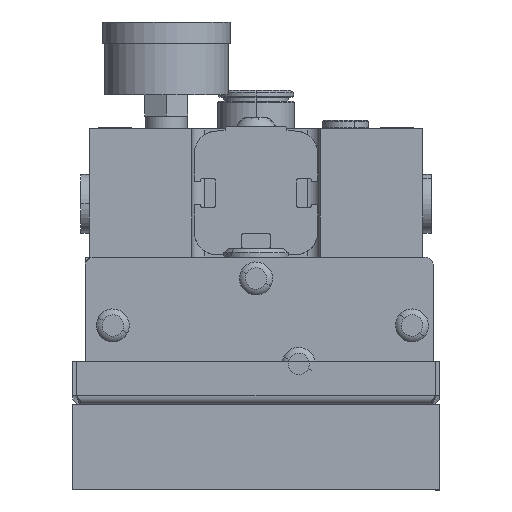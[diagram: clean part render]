
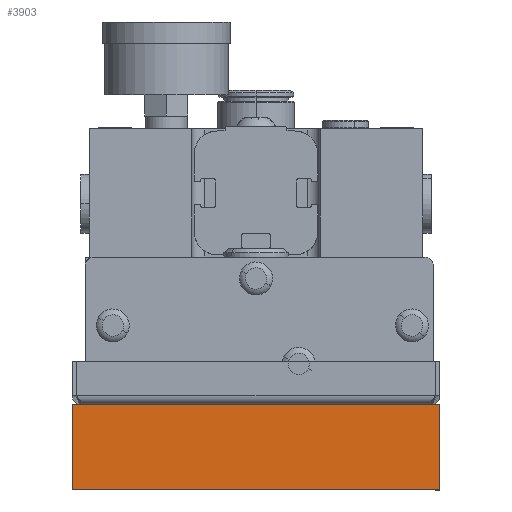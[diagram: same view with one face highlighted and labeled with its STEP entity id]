
A CAD part, front view. The second image highlights one B-rep face of the part: STEP entity #3903.
In plain terms, the highlighted planar face has unit normal (0, -1, 0).
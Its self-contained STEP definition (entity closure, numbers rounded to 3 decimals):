
#2549 = ORIENTED_EDGE ( 'NONE', *, *, #26802, .F. ) ;
#2551 = ORIENTED_EDGE ( 'NONE', *, *, #26729, .T. ) ;
#2552 = ORIENTED_EDGE ( 'NONE', *, *, #26722, .F. ) ;
#2559 = ORIENTED_EDGE ( 'NONE', *, *, #26728, .T. ) ;
#3903 = ADVANCED_FACE ( 'NONE', ( #12748 ), #24042, .F. ) ;
#12748 = FACE_OUTER_BOUND ( 'NONE', #19196, .T. ) ;
#14394 = CARTESIAN_POINT ( 'NONE',  ( -40.144, -134.65, 45.716 ) ) ;
#14420 = DIRECTION ( 'NONE',  ( 0., 0., 1. ) ) ;
#14435 = CARTESIAN_POINT ( 'NONE',  ( 45.856, -134.65, 65.716 ) ) ;
#14437 = CARTESIAN_POINT ( 'NONE',  ( 45.856, -134.65, 45.716 ) ) ;
#14451 = DIRECTION ( 'NONE',  ( 0., 0., 1. ) ) ;
#14456 = DIRECTION ( 'NONE',  ( -1., 0., 0. ) ) ;
#14920 = CARTESIAN_POINT ( 'NONE',  ( 45.856, -134.65, 45.716 ) ) ;
#14922 = DIRECTION ( 'NONE',  ( -1., 0., 0. ) ) ;
#15909 = CARTESIAN_POINT ( 'NONE',  ( -40.144, -134.65, 45.716 ) ) ;
#15972 = CARTESIAN_POINT ( 'NONE',  ( 45.856, -134.65, 65.716 ) ) ;
#15974 = CARTESIAN_POINT ( 'NONE',  ( -40.144, -134.65, 65.716 ) ) ;
#16093 = CARTESIAN_POINT ( 'NONE',  ( 45.856, -134.65, 45.716 ) ) ;
#18369 = AXIS2_PLACEMENT_3D ( 'NONE', #24113, #24731, #24399 ) ;
#19196 = EDGE_LOOP ( 'NONE', ( #2551, #2552, #2549, #2559 ) ) ;
#20010 = VERTEX_POINT ( 'NONE', #15974 ) ;
#20013 = VERTEX_POINT ( 'NONE', #15972 ) ;
#20278 = VERTEX_POINT ( 'NONE', #15909 ) ;
#20279 = VERTEX_POINT ( 'NONE', #16093 ) ;
#22151 = LINE ( 'NONE', #14920, #22267 ) ;
#22256 = VECTOR ( 'NONE', #14456, 1000. ) ;
#22261 = VECTOR ( 'NONE', #14451, 1000. ) ;
#22267 = VECTOR ( 'NONE', #14922, 1000. ) ;
#22270 = LINE ( 'NONE', #14435, #22256 ) ;
#22282 = LINE ( 'NONE', #14437, #22261 ) ;
#22300 = VECTOR ( 'NONE', #14420, 1000. ) ;
#22324 = LINE ( 'NONE', #14394, #22300 ) ;
#24042 = PLANE ( 'NONE',  #18369 ) ;
#24113 = CARTESIAN_POINT ( 'NONE',  ( 45.856, -134.65, 45.716 ) ) ;
#24399 = DIRECTION ( 'NONE',  ( 0., 0., 1. ) ) ;
#24731 = DIRECTION ( 'NONE',  ( 0., 1., 0. ) ) ;
#26722 = EDGE_CURVE ( 'NONE', #20278, #20010, #22324, .T. ) ;
#26728 = EDGE_CURVE ( 'NONE', #20279, #20013, #22282, .T. ) ;
#26729 = EDGE_CURVE ( 'NONE', #20013, #20010, #22270, .T. ) ;
#26802 = EDGE_CURVE ( 'NONE', #20279, #20278, #22151, .T. ) ;
